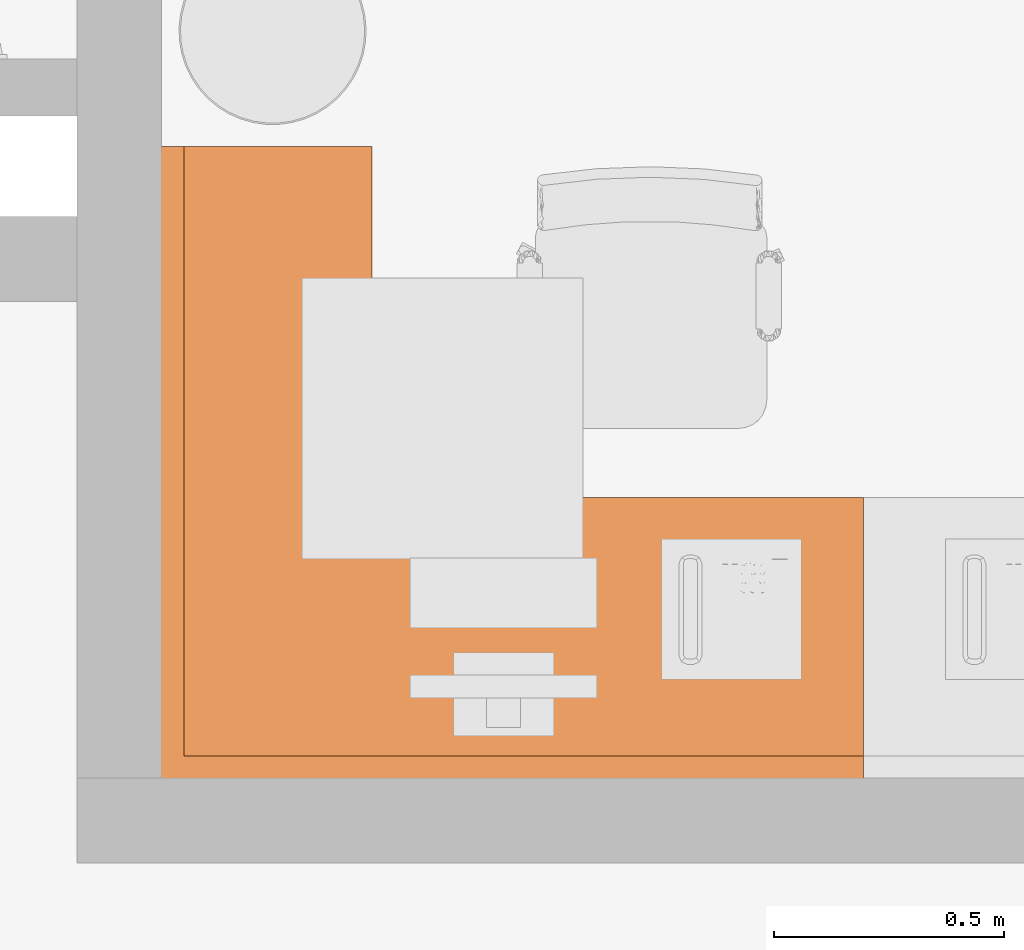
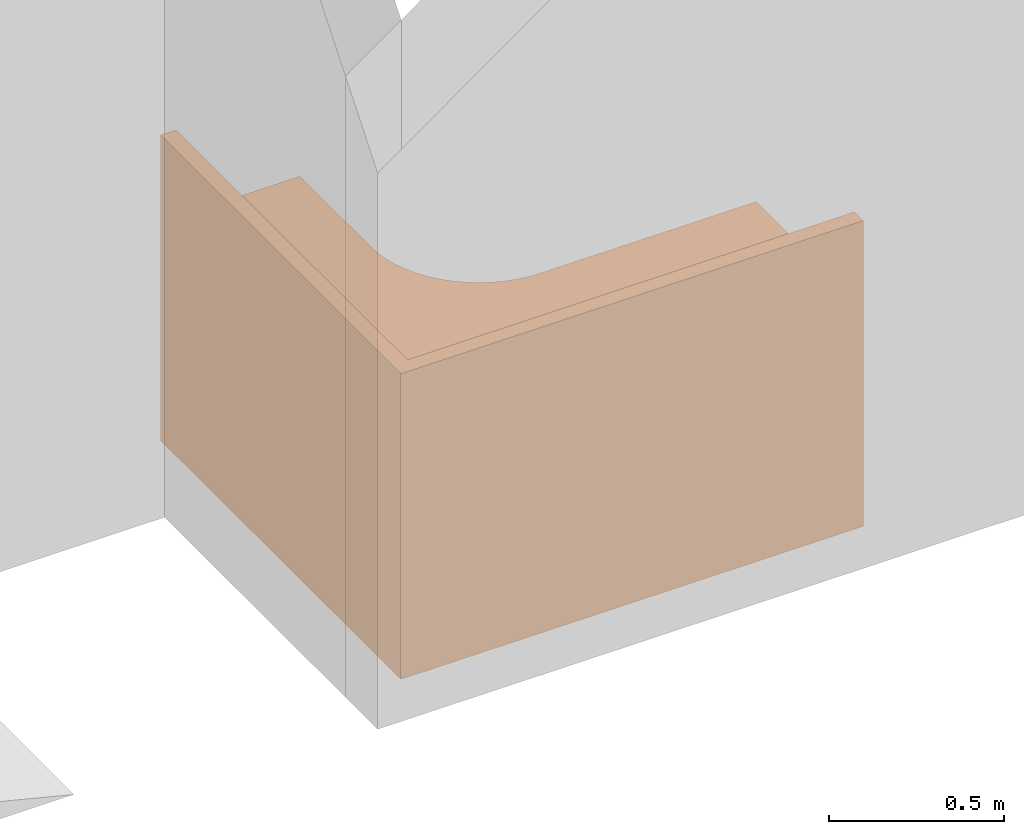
# One storey, part 15 of 142: 1 proxy.
"""IFC2X3 building model written with IfcOpenShell, lengths in feet."""

from ifc_helpers import new_model, entity, si_unit, converted_unit, derived_unit, direction, frame, frame_2d, origin, origin_2d_with_axis, place, context, subcontext, project, spatial, polyline, circle_curve, parameter, trimmed, segment, composite_curve, rectangle, outline, extrude, source, transform, mapped, type_object, type_shapes, element, save


model = new_model("IFC2X3")

# Units and contexts
model_context = context("Model", 3, precision=0.0001, world=origin(), true_north=direction((6.12303176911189e-17, 1.0)))
body_context = subcontext(model_context, "Body", "Model", "MODEL_VIEW")
ifc_project = project(units=[converted_unit("LENGTHUNIT", "FOOT", entity("IfcRatioMeasure", 0.3048), si_unit("LENGTHUNIT", "METRE"), dimensions=[1, 0, 0, 0, 0, 0, 0]), converted_unit("AREAUNIT", "SQUARE FOOT", entity("IfcRatioMeasure", 0.09290304), si_unit("AREAUNIT", "SQUARE_METRE"), dimensions=[2, 0, 0, 0, 0, 0, 0]), converted_unit("VOLUMEUNIT", "CUBIC FOOT", entity("IfcRatioMeasure", 0.028316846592), si_unit("VOLUMEUNIT", "CUBIC_METRE"), dimensions=[3, 0, 0, 0, 0, 0, 0]), converted_unit("PLANEANGLEUNIT", "DEGREE", entity("IfcRatioMeasure", 0.0174532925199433), si_unit("PLANEANGLEUNIT", "RADIAN"), dimensions=[0, 0, 0, 0, 0, 0, 0]), si_unit("MASSUNIT", "GRAM", prefix="KILO"), derived_unit("MASSDENSITYUNIT", [(si_unit("MASSUNIT", "GRAM", prefix="KILO"), 1), (si_unit("LENGTHUNIT", "METRE"), -3)]), si_unit("TIMEUNIT", "SECOND"), si_unit("FREQUENCYUNIT", "HERTZ"), si_unit("THERMODYNAMICTEMPERATUREUNIT", "DEGREE_CELSIUS"), derived_unit("THERMALTRANSMITTANCEUNIT", [(si_unit("MASSUNIT", "GRAM", prefix="KILO"), 1), (si_unit("THERMODYNAMICTEMPERATUREUNIT", "KELVIN"), -1), (si_unit("TIMEUNIT", "SECOND"), -3)]), derived_unit("VOLUMETRICFLOWRATEUNIT", [(si_unit("LENGTHUNIT", "METRE"), 3), (si_unit("TIMEUNIT", "SECOND"), -1)]), si_unit("ELECTRICCURRENTUNIT", "AMPERE"), si_unit("ELECTRICVOLTAGEUNIT", "VOLT"), si_unit("POWERUNIT", "WATT"), si_unit("FORCEUNIT", "NEWTON"), si_unit("ILLUMINANCEUNIT", "LUX"), si_unit("LUMINOUSFLUXUNIT", "LUMEN"), si_unit("LUMINOUSINTENSITYUNIT", "CANDELA"), derived_unit("USERDEFINED", [(si_unit("MASSUNIT", "GRAM", prefix="KILO"), -1), (si_unit("LENGTHUNIT", "METRE"), -2), (si_unit("TIMEUNIT", "SECOND"), 3), (si_unit("LUMINOUSFLUXUNIT", "LUMEN"), 1)]), derived_unit("LINEARVELOCITYUNIT", [(si_unit("LENGTHUNIT", "METRE"), 1), (si_unit("TIMEUNIT", "SECOND"), -1)]), si_unit("PRESSUREUNIT", "PASCAL"), derived_unit("USERDEFINED", [(si_unit("LENGTHUNIT", "METRE"), -2), (si_unit("MASSUNIT", "GRAM", prefix="KILO"), 1), (si_unit("TIMEUNIT", "SECOND"), -2)])], contexts=[model_context])

# Site, building, storey, space
site_placement = place(None, origin())
site = spatial("IfcSite", under=ifc_project, at=site_placement, Name="Default", CompositionType="ELEMENT")
building_placement = place(site_placement, origin())
building = spatial("IfcBuilding", under=site, at=building_placement, Name="OUTPATIENT / PACT CLINIC (Ch. 265)", CompositionType="ELEMENT")
storey_placement = place(building_placement, origin())
storey = spatial("IfcBuildingStorey", under=building, at=storey_placement, Name="LEVEL 1", CompositionType="ELEMENT", Elevation=0.0)
space_placement = place(storey_placement, origin())
space = spatial("IfcSpace", under=storey, at=space_placement, Name="FA01", CompositionType="ELEMENT", InteriorOrExteriorSpace="INTERNAL")

# Proxy
building_element_proxy_type = type_object("IfcBuildingElementProxyType", Name="U0075 - Workstation, L-Shaped, Freestanding, 60x54", PredefinedType="NOTDEFINED")
shared_shape = source(origin(), body_context, "Body", "SweptSolid", [
    extrude(rectangle(XDim=0.166666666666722, YDim=2.0, at=frame_2d((-1.3836154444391e-14, 0.0), x_axis=(1.0, 0.0))), frame((0.0833333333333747, -1.0, 0.0), z_axis=(0.0, 0.0, 1.0), x_axis=(-1.0, 0.0, 0.0)), (0.0, 0.0, 1.0), 2.375),
    extrude(rectangle(XDim=0.166666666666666, YDim=1.5, at=frame_2d((0.0, -4.44089209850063e-16), x_axis=(1.0, 0.0))), frame((4.25000000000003, -4.41666666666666, 0.0), z_axis=(0.0, 0.0, 1.0), x_axis=(0.0, 1.0, 0.0)), (0.0, 0.0, 1.0), 2.37499999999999),
    extrude(outline(composite_curve([segment(polyline([(-2.23809523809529, -2.3095238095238), (2.7619047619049, -2.3095238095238)]), True, "CONTINUOUS"), segment(polyline([(2.7619047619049, -2.3095238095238), (2.7619047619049, -0.309523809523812)]), True, "CONTINUOUS"), segment(polyline([(2.7619047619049, -0.309523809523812), (0.428571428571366, -0.309523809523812)]), True, "CONTINUOUS"), segment(trimmed(circle_curve(frame_2d((0.428571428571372, 0.857142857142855), x_axis=(1.0, 0.0)), 1.16666666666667), [parameter(180.0)], [parameter(270.0)], True, "PARAMETER"), False, "CONTINUOUS"), segment(polyline([(-0.738095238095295, 0.857142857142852), (-0.738095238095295, 2.19047619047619)]), True, "CONTINUOUS"), segment(polyline([(-0.738095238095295, 2.19047619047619), (-2.23809523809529, 2.19047619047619)]), True, "CONTINUOUS"), segment(polyline([(-2.23809523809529, 2.19047619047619), (-2.23809523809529, -2.3095238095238)]), True, "CONTINUOUS")], self_intersect=False)), frame((2.76190476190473, -2.30952380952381, 2.37499999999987), z_axis=(0.0, 0.0, 1.0), x_axis=(-1.0, 0.0, 0.0)), (0.0, 0.0, 1.0), 0.125),
    extrude(outline(polyline([(-2.16666666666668, -2.16666666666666), (2.83333333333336, -2.16666666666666), (2.83333333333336, -0.16666666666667), (-0.666666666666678, -0.16666666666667), (-0.666666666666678, 2.33333333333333), (-2.16666666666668, 2.33333333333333), (-2.16666666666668, -2.16666666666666)])), frame((2.83333333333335, -2.16666666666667, 2.37499999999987), z_axis=(0.0, 0.0, 1.0), x_axis=(-1.0, 0.0, 0.0)), (0.0, 0.0, 1.0), 0.125),
    extrude(rectangle(XDim=5.00000000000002, YDim=0.166666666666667, at=origin_2d_with_axis()), frame((2.49999999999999, -0.075000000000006, 0.0), z_axis=(0.0, 0.0, 1.0), x_axis=(-1.0, 0.0, 0.0)), (0.0, 0.0, 1.0), 3.5),
    extrude(rectangle(XDim=4.50000000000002, YDim=0.166666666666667, at=frame_2d((0.0, 4.44089209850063e-16), x_axis=(1.0, 0.0))), frame((4.92500000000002, -2.25000000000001, 0.0), z_axis=(0.0, 0.0, 1.0), x_axis=(0.0, 1.0, 0.0)), (0.0, 0.0, 1.0), 3.5),
])
type_shapes(building_element_proxy_type, [shared_shape])
proxy_placement = place(space_placement, frame((423.546783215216, -952.649655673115, 0.0), z_axis=(0.0, 0.0, 1.0), x_axis=(-1.0, 0.0, 0.0)))
element("IfcBuildingElementProxy", 1, at=proxy_placement, inside=space, type_object=building_element_proxy_type, Name="U0075 - Workstation, L-Shaped, Freestanding, 60x54:U0075 - Workstation, L-Shaped, Freestanding, 60x54", ObjectType="U0075 - Workstation, L-Shaped, Freestanding, 60x54", context=body_context, shape_type="MappedRepresentation", body=[
    mapped(shared_shape, transform((0.0, 0.0, 0.0), scale=1.0)),
])

save(model, "model.ifc")
